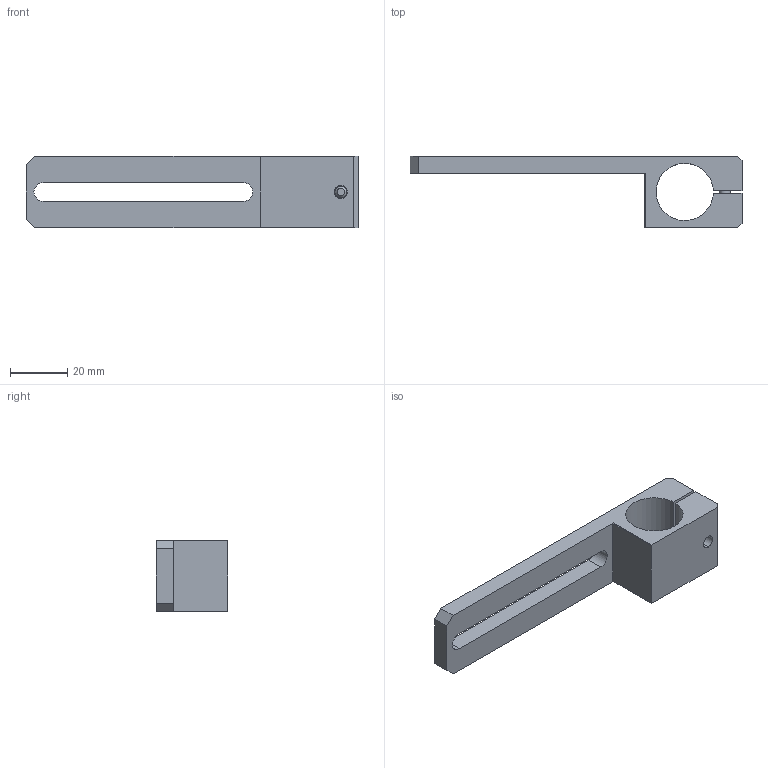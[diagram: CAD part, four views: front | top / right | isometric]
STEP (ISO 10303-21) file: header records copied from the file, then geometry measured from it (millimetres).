
FILE_DESCRIPTION (( 'STEP AP214' ), '1' );
FILE_NAME ('SCF5-2070W25.STEP', '2019-11-11T01:53:37', ( '微软用户' ), ( '微软中国' ), 'SwSTEP 2.0', 'SolidWorks 2016', '' );
FILE_SCHEMA (( 'AUTOMOTIVE_DESIGN' ));
Length unit declared in the file: millimetre
Products named in the file (1): SCF5-2070W25
Bounding box: 116 x 25 x 25 mm (x, y, z)
Volume: 22235 mm3; surface area: 11815.7 mm2
Topology: 3 solids, 3 shells, 243 faces, 696 edges, 460 vertices
Faces by surface type: plane 222, cylinder 17, cone 2, bspline 2
Entity records: 10820 total; most frequent: CARTESIAN_POINT 1524, DIRECTION 1396, ORIENTED_EDGE 1392, EDGE_CURVE 696, VECTOR 472, LINE 472, AXIS2_PLACEMENT_3D 462, VERTEX_POINT 460
